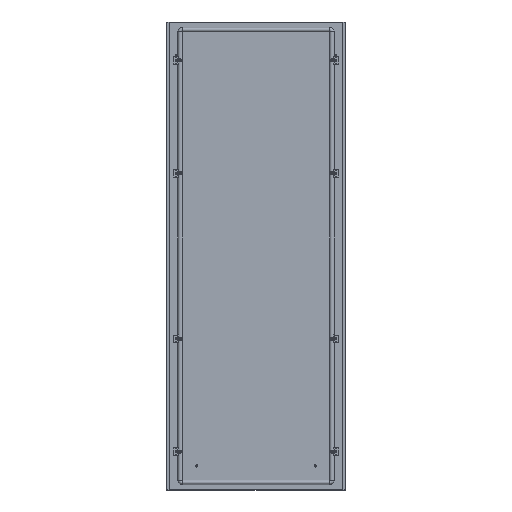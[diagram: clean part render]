
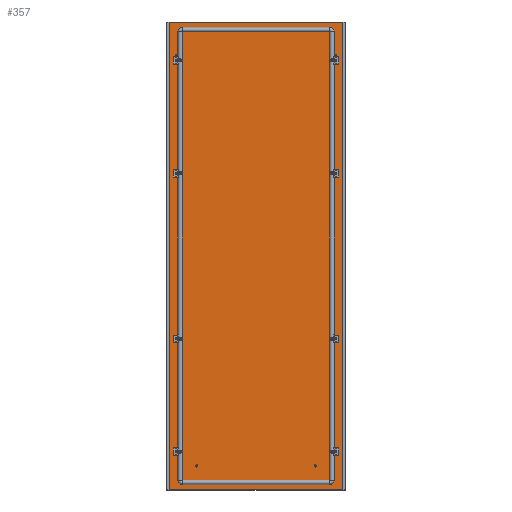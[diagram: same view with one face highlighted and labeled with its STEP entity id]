
A CAD part, top view. The second image highlights one B-rep face of the part: STEP entity #357.
In plain terms, the highlighted planar face has unit normal (0, 0, 1).
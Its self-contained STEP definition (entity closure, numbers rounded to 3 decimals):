
#357 = ADVANCED_FACE('',(#358,#456,#467,#478,#498,#518,#529,#540,#560),
  #580,.F.);
#358 = FACE_BOUND('',#359,.T.);
#359 = EDGE_LOOP('',(#360,#370,#378,#386,#394,#402,#410,#418,#426,#434,
    #442,#450));
#360 = ORIENTED_EDGE('',*,*,#361,.F.);
#361 = EDGE_CURVE('',#362,#364,#366,.T.);
#362 = VERTEX_POINT('',#363);
#363 = CARTESIAN_POINT('',(-295.5,777.5,0.));
#364 = VERTEX_POINT('',#365);
#365 = CARTESIAN_POINT('',(-295.3,777.5,0.));
#366 = LINE('',#367,#368);
#367 = CARTESIAN_POINT('',(0.,777.5,0.)
  );
#368 = VECTOR('',#369,1.);
#369 = DIRECTION('',(1.,0.,0.));
#370 = ORIENTED_EDGE('',*,*,#371,.T.);
#371 = EDGE_CURVE('',#362,#372,#374,.T.);
#372 = VERTEX_POINT('',#373);
#373 = CARTESIAN_POINT('',(-295.5,-777.5,0.));
#374 = LINE('',#375,#376);
#375 = CARTESIAN_POINT('',(-295.5,0.,
    0.));
#376 = VECTOR('',#377,1.);
#377 = DIRECTION('',(0.,-1.,0.));
#378 = ORIENTED_EDGE('',*,*,#379,.T.);
#379 = EDGE_CURVE('',#372,#380,#382,.T.);
#380 = VERTEX_POINT('',#381);
#381 = CARTESIAN_POINT('',(-295.3,-777.5,0.));
#382 = LINE('',#383,#384);
#383 = CARTESIAN_POINT('',(0.,-777.5,0.
    ));
#384 = VECTOR('',#385,1.);
#385 = DIRECTION('',(1.,-0.,-0.));
#386 = ORIENTED_EDGE('',*,*,#387,.F.);
#387 = EDGE_CURVE('',#388,#380,#390,.T.);
#388 = VERTEX_POINT('',#389);
#389 = CARTESIAN_POINT('',(-295.3,-776.,0.));
#390 = LINE('',#391,#392);
#391 = CARTESIAN_POINT('',(-295.3,0.,
    0.));
#392 = VECTOR('',#393,1.);
#393 = DIRECTION('',(0.,-1.,0.));
#394 = ORIENTED_EDGE('',*,*,#395,.T.);
#395 = EDGE_CURVE('',#388,#396,#398,.T.);
#396 = VERTEX_POINT('',#397);
#397 = CARTESIAN_POINT('',(295.3,-776.,0.));
#398 = LINE('',#399,#400);
#399 = CARTESIAN_POINT('',(0.,-776.,0.)
  );
#400 = VECTOR('',#401,1.);
#401 = DIRECTION('',(1.,-0.,-0.));
#402 = ORIENTED_EDGE('',*,*,#403,.T.);
#403 = EDGE_CURVE('',#396,#404,#406,.T.);
#404 = VERTEX_POINT('',#405);
#405 = CARTESIAN_POINT('',(295.3,-777.5,0.));
#406 = LINE('',#407,#408);
#407 = CARTESIAN_POINT('',(295.3,-776.,0.));
#408 = VECTOR('',#409,1.);
#409 = DIRECTION('',(0.,-1.,0.));
#410 = ORIENTED_EDGE('',*,*,#411,.F.);
#411 = EDGE_CURVE('',#412,#404,#414,.T.);
#412 = VERTEX_POINT('',#413);
#413 = CARTESIAN_POINT('',(295.5,-777.5,0.));
#414 = LINE('',#415,#416);
#415 = CARTESIAN_POINT('',(0.,-777.5,0.
    ));
#416 = VECTOR('',#417,1.);
#417 = DIRECTION('',(-1.,0.,0.));
#418 = ORIENTED_EDGE('',*,*,#419,.T.);
#419 = EDGE_CURVE('',#412,#420,#422,.T.);
#420 = VERTEX_POINT('',#421);
#421 = CARTESIAN_POINT('',(295.5,777.5,
    0.));
#422 = LINE('',#423,#424);
#423 = CARTESIAN_POINT('',(295.5,0.,0.));
#424 = VECTOR('',#425,1.);
#425 = DIRECTION('',(0.,1.,0.));
#426 = ORIENTED_EDGE('',*,*,#427,.T.);
#427 = EDGE_CURVE('',#420,#428,#430,.T.);
#428 = VERTEX_POINT('',#429);
#429 = CARTESIAN_POINT('',(295.3,777.5,0.));
#430 = LINE('',#431,#432);
#431 = CARTESIAN_POINT('',(0.,777.5,
    0.));
#432 = VECTOR('',#433,1.);
#433 = DIRECTION('',(-1.,0.,0.));
#434 = ORIENTED_EDGE('',*,*,#435,.F.);
#435 = EDGE_CURVE('',#436,#428,#438,.T.);
#436 = VERTEX_POINT('',#437);
#437 = CARTESIAN_POINT('',(295.3,776.,0.));
#438 = LINE('',#439,#440);
#439 = CARTESIAN_POINT('',(295.3,0.,0.
    ));
#440 = VECTOR('',#441,1.);
#441 = DIRECTION('',(0.,1.,0.));
#442 = ORIENTED_EDGE('',*,*,#443,.T.);
#443 = EDGE_CURVE('',#436,#444,#446,.T.);
#444 = VERTEX_POINT('',#445);
#445 = CARTESIAN_POINT('',(-295.3,776.,0.));
#446 = LINE('',#447,#448);
#447 = CARTESIAN_POINT('',(0.,776.,
    0.));
#448 = VECTOR('',#449,1.);
#449 = DIRECTION('',(-1.,0.,0.));
#450 = ORIENTED_EDGE('',*,*,#451,.T.);
#451 = EDGE_CURVE('',#444,#364,#452,.T.);
#452 = LINE('',#453,#454);
#453 = CARTESIAN_POINT('',(-295.3,776.,0.));
#454 = VECTOR('',#455,1.);
#455 = DIRECTION('',(0.,1.,0.));
#456 = FACE_BOUND('',#457,.T.);
#457 = EDGE_LOOP('',(#458));
#458 = ORIENTED_EDGE('',*,*,#459,.T.);
#459 = EDGE_CURVE('',#460,#460,#462,.T.);
#460 = VERTEX_POINT('',#461);
#461 = CARTESIAN_POINT('',(-264.5,-270.25,
    0.));
#462 = CIRCLE('',#463,4.75);
#463 = AXIS2_PLACEMENT_3D('',#464,#465,#466);
#464 = CARTESIAN_POINT('',(-264.5,-275.,0.));
#465 = DIRECTION('',(0.,0.,-1.));
#466 = DIRECTION('',(0.,1.,0.));
#467 = FACE_BOUND('',#468,.T.);
#468 = EDGE_LOOP('',(#469));
#469 = ORIENTED_EDGE('',*,*,#470,.T.);
#470 = EDGE_CURVE('',#471,#471,#473,.T.);
#471 = VERTEX_POINT('',#472);
#472 = CARTESIAN_POINT('',(264.5,-279.75,
    0.));
#473 = CIRCLE('',#474,4.75);
#474 = AXIS2_PLACEMENT_3D('',#475,#476,#477);
#475 = CARTESIAN_POINT('',(264.5,-275.,0.));
#476 = DIRECTION('',(-0.,0.,-1.));
#477 = DIRECTION('',(0.,-1.,0.));
#478 = FACE_BOUND('',#479,.T.);
#479 = EDGE_LOOP('',(#480,#491));
#480 = ORIENTED_EDGE('',*,*,#481,.F.);
#481 = EDGE_CURVE('',#482,#484,#486,.T.);
#482 = VERTEX_POINT('',#483);
#483 = CARTESIAN_POINT('',(-264.5,654.75,
    0.));
#484 = VERTEX_POINT('',#485);
#485 = CARTESIAN_POINT('',(-264.5,645.25,
    0.));
#486 = CIRCLE('',#487,4.75);
#487 = AXIS2_PLACEMENT_3D('',#488,#489,#490);
#488 = CARTESIAN_POINT('',(-264.5,650.,0.));
#489 = DIRECTION('',(0.,0.,1.));
#490 = DIRECTION('',(0.,1.,0.));
#491 = ORIENTED_EDGE('',*,*,#492,.F.);
#492 = EDGE_CURVE('',#484,#482,#493,.T.);
#493 = CIRCLE('',#494,4.75);
#494 = AXIS2_PLACEMENT_3D('',#495,#496,#497);
#495 = CARTESIAN_POINT('',(-264.5,650.,0.));
#496 = DIRECTION('',(0.,0.,1.));
#497 = DIRECTION('',(0.,1.,0.));
#498 = FACE_BOUND('',#499,.T.);
#499 = EDGE_LOOP('',(#500,#511));
#500 = ORIENTED_EDGE('',*,*,#501,.F.);
#501 = EDGE_CURVE('',#502,#504,#506,.T.);
#502 = VERTEX_POINT('',#503);
#503 = CARTESIAN_POINT('',(264.5,645.25,
    0.));
#504 = VERTEX_POINT('',#505);
#505 = CARTESIAN_POINT('',(264.5,654.75,
    0.));
#506 = CIRCLE('',#507,4.75);
#507 = AXIS2_PLACEMENT_3D('',#508,#509,#510);
#508 = CARTESIAN_POINT('',(264.5,650.,0.));
#509 = DIRECTION('',(0.,0.,1.));
#510 = DIRECTION('',(0.,-1.,0.));
#511 = ORIENTED_EDGE('',*,*,#512,.F.);
#512 = EDGE_CURVE('',#504,#502,#513,.T.);
#513 = CIRCLE('',#514,4.75);
#514 = AXIS2_PLACEMENT_3D('',#515,#516,#517);
#515 = CARTESIAN_POINT('',(264.5,650.,0.));
#516 = DIRECTION('',(0.,0.,1.));
#517 = DIRECTION('',(0.,-1.,0.));
#518 = FACE_BOUND('',#519,.T.);
#519 = EDGE_LOOP('',(#520));
#520 = ORIENTED_EDGE('',*,*,#521,.T.);
#521 = EDGE_CURVE('',#522,#522,#524,.T.);
#522 = VERTEX_POINT('',#523);
#523 = CARTESIAN_POINT('',(-264.5,-645.25,
    0.));
#524 = CIRCLE('',#525,4.75);
#525 = AXIS2_PLACEMENT_3D('',#526,#527,#528);
#526 = CARTESIAN_POINT('',(-264.5,-650.,0.));
#527 = DIRECTION('',(0.,0.,-1.));
#528 = DIRECTION('',(0.,1.,0.));
#529 = FACE_BOUND('',#530,.T.);
#530 = EDGE_LOOP('',(#531));
#531 = ORIENTED_EDGE('',*,*,#532,.T.);
#532 = EDGE_CURVE('',#533,#533,#535,.T.);
#533 = VERTEX_POINT('',#534);
#534 = CARTESIAN_POINT('',(264.5,-654.75,
    0.));
#535 = CIRCLE('',#536,4.75);
#536 = AXIS2_PLACEMENT_3D('',#537,#538,#539);
#537 = CARTESIAN_POINT('',(264.5,-650.,0.));
#538 = DIRECTION('',(-0.,0.,-1.));
#539 = DIRECTION('',(0.,-1.,0.));
#540 = FACE_BOUND('',#541,.T.);
#541 = EDGE_LOOP('',(#542,#553));
#542 = ORIENTED_EDGE('',*,*,#543,.F.);
#543 = EDGE_CURVE('',#544,#546,#548,.T.);
#544 = VERTEX_POINT('',#545);
#545 = CARTESIAN_POINT('',(264.5,270.25,
    0.));
#546 = VERTEX_POINT('',#547);
#547 = CARTESIAN_POINT('',(264.5,279.75,
    0.));
#548 = CIRCLE('',#549,4.75);
#549 = AXIS2_PLACEMENT_3D('',#550,#551,#552);
#550 = CARTESIAN_POINT('',(264.5,275.,0.));
#551 = DIRECTION('',(0.,0.,1.));
#552 = DIRECTION('',(0.,-1.,0.));
#553 = ORIENTED_EDGE('',*,*,#554,.F.);
#554 = EDGE_CURVE('',#546,#544,#555,.T.);
#555 = CIRCLE('',#556,4.75);
#556 = AXIS2_PLACEMENT_3D('',#557,#558,#559);
#557 = CARTESIAN_POINT('',(264.5,275.,0.));
#558 = DIRECTION('',(0.,0.,1.));
#559 = DIRECTION('',(0.,-1.,0.));
#560 = FACE_BOUND('',#561,.T.);
#561 = EDGE_LOOP('',(#562,#573));
#562 = ORIENTED_EDGE('',*,*,#563,.F.);
#563 = EDGE_CURVE('',#564,#566,#568,.T.);
#564 = VERTEX_POINT('',#565);
#565 = CARTESIAN_POINT('',(-264.5,279.75,
    0.));
#566 = VERTEX_POINT('',#567);
#567 = CARTESIAN_POINT('',(-264.5,270.25,
    0.));
#568 = CIRCLE('',#569,4.75);
#569 = AXIS2_PLACEMENT_3D('',#570,#571,#572);
#570 = CARTESIAN_POINT('',(-264.5,275.,0.));
#571 = DIRECTION('',(0.,0.,1.));
#572 = DIRECTION('',(0.,1.,0.));
#573 = ORIENTED_EDGE('',*,*,#574,.F.);
#574 = EDGE_CURVE('',#566,#564,#575,.T.);
#575 = CIRCLE('',#576,4.75);
#576 = AXIS2_PLACEMENT_3D('',#577,#578,#579);
#577 = CARTESIAN_POINT('',(-264.5,275.,0.));
#578 = DIRECTION('',(0.,0.,1.));
#579 = DIRECTION('',(0.,1.,0.));
#580 = PLANE('',#581);
#581 = AXIS2_PLACEMENT_3D('',#582,#583,#584);
#582 = CARTESIAN_POINT('',(0.,0.,
    0.));
#583 = DIRECTION('',(0.,0.,-1.));
#584 = DIRECTION('',(-1.,0.,0.));
